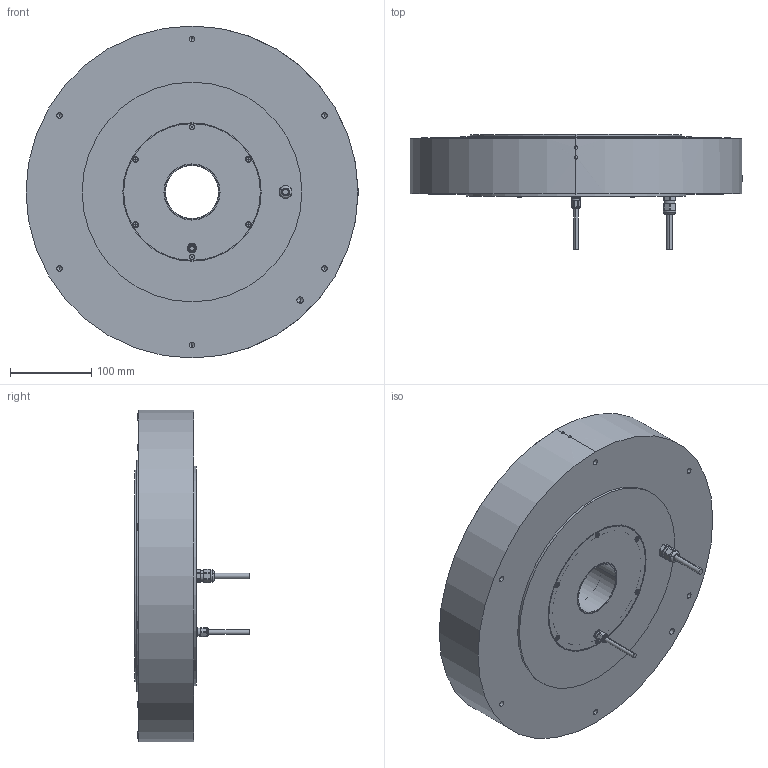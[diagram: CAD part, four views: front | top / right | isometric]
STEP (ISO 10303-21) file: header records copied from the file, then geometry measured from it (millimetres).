
FILE_DESCRIPTION (( 'STEP AP214' ), '1' );
FILE_NAME ('ND400-70-LSP(INC).step', '2025-03-10T02:28:41', ( '' ), ( '' ), 'SwSTEP 2.0', 'SolidWorks 2024', '' );
FILE_SCHEMA (( 'AUTOMOTIVE_DESIGN' ));
Length unit declared in the file: millimetre
Products named in the file (1): ND400-70-LSP(INC)
Bounding box: 408 x 141.1 x 408 mm (x, y, z)
Volume: 3886115.8 mm3; surface area: 767353.1 mm2
Topology: 34 solids, 34 shells, 1159 faces, 2883 edges, 1788 vertices
Faces by surface type: cylinder 617, plane 225, cone 210, torus 75, sphere 32
Entity records: 36814 total; most frequent: CARTESIAN_POINT 9033, DIRECTION 5942, ORIENTED_EDGE 5542, EDGE_CURVE 2771, AXIS2_PLACEMENT_3D 2443, VERTEX_POINT 1788, EDGE_LOOP 1347, CIRCLE 1283
